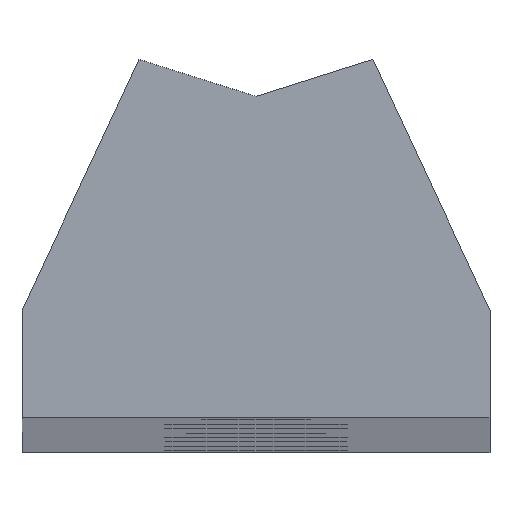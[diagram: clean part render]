
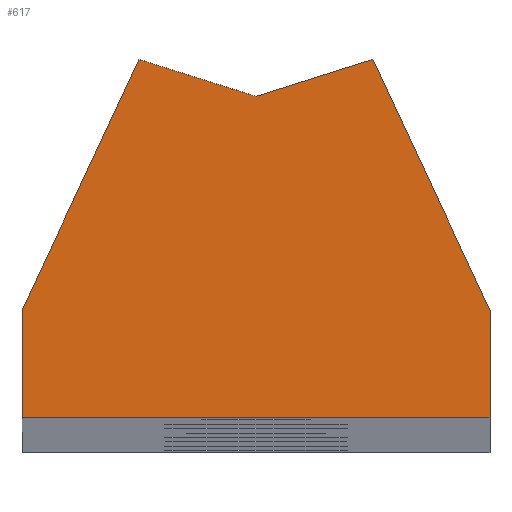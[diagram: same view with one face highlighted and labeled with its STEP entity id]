
A CAD part, top view. The second image highlights one B-rep face of the part: STEP entity #617.
In plain terms, the highlighted planar face has unit normal (0, 0, 1).
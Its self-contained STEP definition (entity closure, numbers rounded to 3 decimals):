
#23 = VERTEX_POINT ( 'NONE', #329 ) ;
#25 = CARTESIAN_POINT ( 'NONE',  ( -3.5, 10.715, 299.75 ) ) ;
#48 = VERTEX_POINT ( 'NONE', #645 ) ;
#63 = CARTESIAN_POINT ( 'NONE',  ( 7., 0., 299.75 ) ) ;
#87 = LINE ( 'NONE', #410, #265 ) ;
#128 = VECTOR ( 'NONE', #886, 1000. ) ;
#140 = CARTESIAN_POINT ( 'NONE',  ( 0., 0., 299.75 ) ) ;
#176 = VECTOR ( 'NONE', #755, 1000. ) ;
#193 = VERTEX_POINT ( 'NONE', #915 ) ;
#204 = ORIENTED_EDGE ( 'NONE', *, *, #1019, .T. ) ;
#254 = LINE ( 'NONE', #583, #128 ) ;
#265 = VECTOR ( 'NONE', #983, 1000. ) ;
#293 = CARTESIAN_POINT ( 'NONE',  ( 7., 3.21, 299.75 ) ) ;
#297 = CARTESIAN_POINT ( 'NONE',  ( 3.5, 10.715, 299.75 ) ) ;
#303 = LINE ( 'NONE', #438, #176 ) ;
#329 = CARTESIAN_POINT ( 'NONE',  ( -7., 0., 299.75 ) ) ;
#390 = DIRECTION ( 'NONE',  ( 0., 0., 1. ) ) ;
#400 = LINE ( 'NONE', #639, #884 ) ;
#410 = CARTESIAN_POINT ( 'NONE',  ( -7., 3.21, 299.75 ) ) ;
#414 = DIRECTION ( 'NONE',  ( -0.423, 0.906, 0. ) ) ;
#419 = DIRECTION ( 'NONE',  ( 1., 0., 0. ) ) ;
#428 = ORIENTED_EDGE ( 'NONE', *, *, #807, .T. ) ;
#438 = CARTESIAN_POINT ( 'NONE',  ( 0., 9.612, 299.75 ) ) ;
#451 = VERTEX_POINT ( 'NONE', #293 ) ;
#470 = DIRECTION ( 'NONE',  ( 0., 1., 0. ) ) ;
#484 = EDGE_CURVE ( 'NONE', #581, #48, #303, .T. ) ;
#498 = VERTEX_POINT ( 'NONE', #297 ) ;
#505 = DIRECTION ( 'NONE',  ( -0.423, -0.906, 0. ) ) ;
#555 = ORIENTED_EDGE ( 'NONE', *, *, #965, .T. ) ;
#558 = CARTESIAN_POINT ( 'NONE',  ( -7., 3.21, 299.75 ) ) ;
#581 = VERTEX_POINT ( 'NONE', #971 ) ;
#583 = CARTESIAN_POINT ( 'NONE',  ( 3.5, 10.715, 299.75 ) ) ;
#591 = EDGE_LOOP ( 'NONE', ( #593, #848, #555, #806, #428, #204, #789 ) ) ;
#593 = ORIENTED_EDGE ( 'NONE', *, *, #484, .T. ) ;
#617 = ADVANCED_FACE ( 'NONE', ( #883 ), #797, .T. ) ;
#635 = DIRECTION ( 'NONE',  ( 1., 0., 0. ) ) ;
#639 = CARTESIAN_POINT ( 'NONE',  ( 7., 3.21, 299.75 ) ) ;
#645 = CARTESIAN_POINT ( 'NONE',  ( -3.5, 10.715, 299.75 ) ) ;
#700 = VERTEX_POINT ( 'NONE', #558 ) ;
#703 = LINE ( 'NONE', #25, #896 ) ;
#755 = DIRECTION ( 'NONE',  ( -0.954, 0.301, 0. ) ) ;
#781 = LINE ( 'NONE', #63, #1008 ) ;
#789 = ORIENTED_EDGE ( 'NONE', *, *, #914, .T. ) ;
#797 = PLANE ( 'NONE',  #958 ) ;
#806 = ORIENTED_EDGE ( 'NONE', *, *, #976, .T. ) ;
#807 = EDGE_CURVE ( 'NONE', #193, #451, #781, .T. ) ;
#815 = EDGE_CURVE ( 'NONE', #48, #700, #703, .T. ) ;
#848 = ORIENTED_EDGE ( 'NONE', *, *, #815, .T. ) ;
#883 = FACE_OUTER_BOUND ( 'NONE', #591, .T. ) ;
#884 = VECTOR ( 'NONE', #414, 1000. ) ;
#886 = DIRECTION ( 'NONE',  ( -0.954, -0.301, 0. ) ) ;
#894 = CARTESIAN_POINT ( 'NONE',  ( -7., 0., 299.75 ) ) ;
#896 = VECTOR ( 'NONE', #505, 1000. ) ;
#914 = EDGE_CURVE ( 'NONE', #498, #581, #254, .T. ) ;
#915 = CARTESIAN_POINT ( 'NONE',  ( 7., 0., 299.75 ) ) ;
#958 = AXIS2_PLACEMENT_3D ( 'NONE', #140, #390, #635 ) ;
#965 = EDGE_CURVE ( 'NONE', #700, #23, #87, .T. ) ;
#971 = CARTESIAN_POINT ( 'NONE',  ( 0., 9.612, 299.75 ) ) ;
#976 = EDGE_CURVE ( 'NONE', #23, #193, #979, .T. ) ;
#979 = LINE ( 'NONE', #894, #1023 ) ;
#983 = DIRECTION ( 'NONE',  ( 0., -1., 0. ) ) ;
#1008 = VECTOR ( 'NONE', #470, 1000. ) ;
#1019 = EDGE_CURVE ( 'NONE', #451, #498, #400, .T. ) ;
#1023 = VECTOR ( 'NONE', #419, 1000. ) ;
